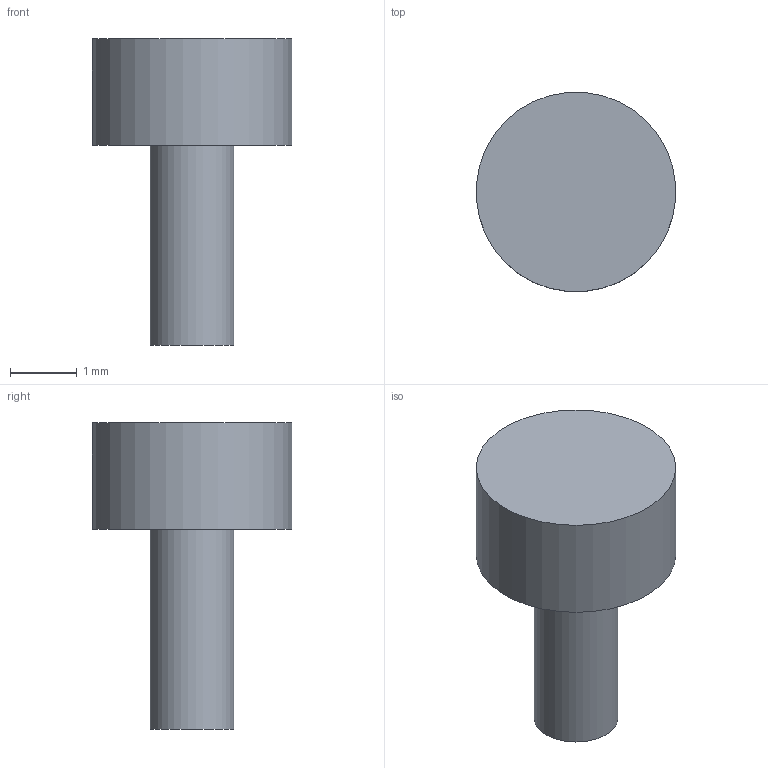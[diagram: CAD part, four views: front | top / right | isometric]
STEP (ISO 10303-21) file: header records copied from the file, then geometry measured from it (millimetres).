
FILE_DESCRIPTION(('Open CASCADE Model'),'2;1');
FILE_NAME('Open CASCADE Shape Model','2026-09-24T19:52:58',('Author'),( 'Open CASCADE'),'Open CASCADE STEP processor 7.8','Open CASCADE 7.8' ,'Unknown');
FILE_SCHEMA(('AUTOMOTIVE_DESIGN { 1 0 10303 214 1 1 1 1 }'));
Length unit declared in the file: millimetre
Products named in the file (1): Open CASCADE STEP translator 7.8 18
Bounding box: 2.99 x 2.99 x 4.6 mm (x, y, z)
Volume: 15.1 mm3; surface area: 41.1 mm2
Topology: 1 solids, 1 shells, 5 faces, 6 edges, 4 vertices
Faces by surface type: plane 3, cylinder 2
Full cylindrical faces by diameter (mm): 1.26 x1, 3 x1
Entity records: 192 total; most frequent: DIRECTION 34, CARTESIAN_POINT 28, ORIENTED_EDGE 12, PCURVE 12, DEFINITIONAL_REPRESENTATION 12, AXIS2_PLACEMENT_3D 10, LINE 10, VECTOR 10
